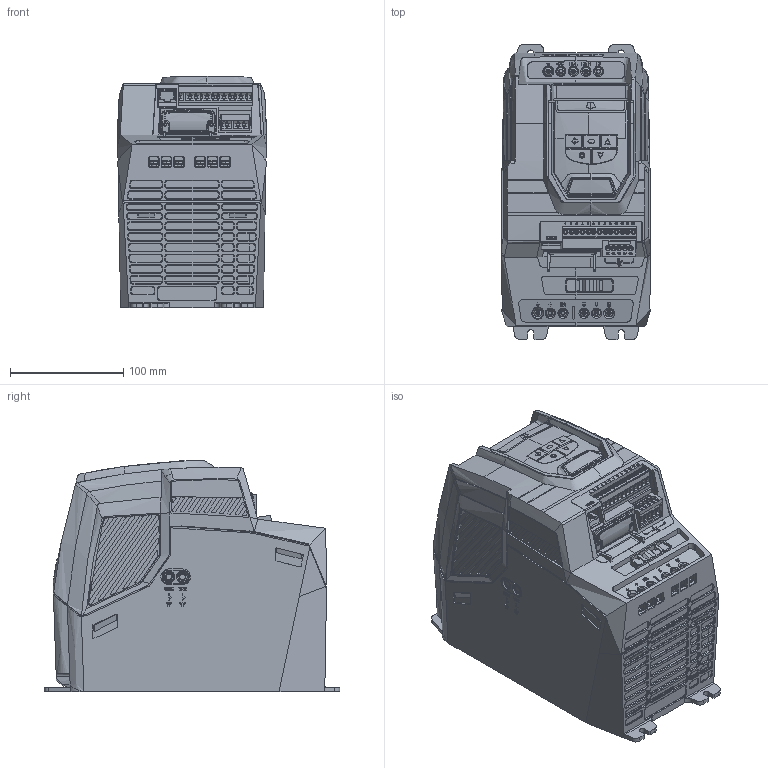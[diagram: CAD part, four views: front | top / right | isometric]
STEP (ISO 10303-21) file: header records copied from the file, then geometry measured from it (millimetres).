
FILE_DESCRIPTION (( 'STEP AP203' ), '1' );
FILE_NAME ('P2.IP20.SIZE3.LED (ENVELOPE).STEP', '2022-08-03T08:43:09', ( '' ), ( '' ), 'SwSTEP 2.0', 'SolidWorks 2022', '' );
FILE_SCHEMA (( 'CONFIG_CONTROL_DESIGN' ));
Length unit declared in the file: millimetre
Products named in the file (1): P2.IP20.SIZE3.LED (ENVELOPE)
Bounding box: 132.08 x 261 x 205.03 mm (x, y, z)
Volume: 5186856 mm3; surface area: 259625.2 mm2
Topology: 1 solids, 5 shells, 6156 faces, 16405 edges, 10588 vertices
Faces by surface type: plane 3437, bspline 1462, cylinder 1059, cone 141, torus 51, sphere 6
Entity records: 272401 total; most frequent: CARTESIAN_POINT 137291, ORIENTED_EDGE 32740, DIRECTION 20133, EDGE_CURVE 16370, VERTEX_POINT 10587, LINE 8651, VECTOR 8651, EDGE_LOOP 6599
